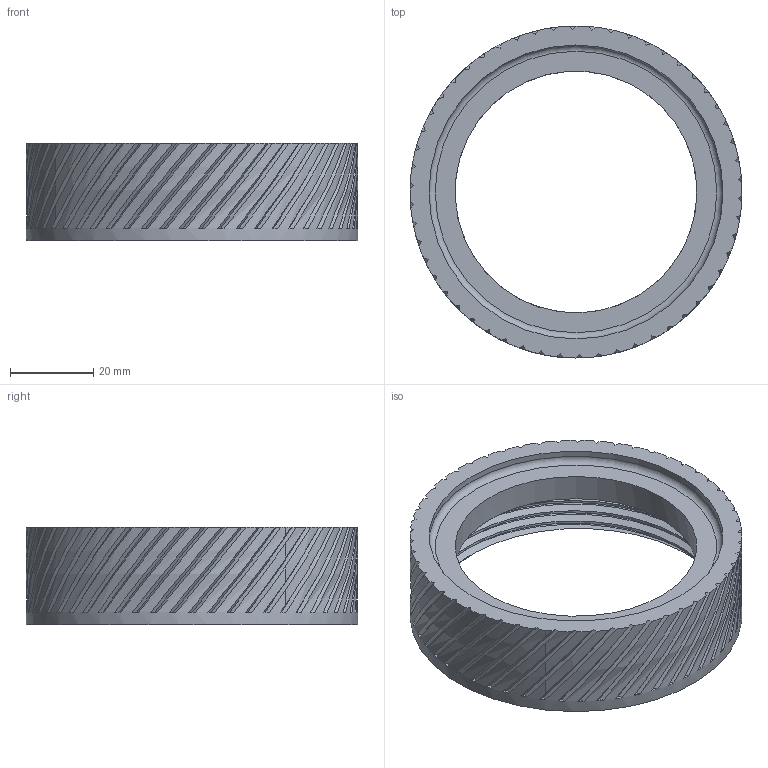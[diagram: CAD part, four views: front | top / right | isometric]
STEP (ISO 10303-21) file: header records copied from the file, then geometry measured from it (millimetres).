
FILE_DESCRIPTION(/* description */ ('STEP AP242','CAx-IF Rec.Pracs.---Representation and Presentation of Product Manufacturing Information (PMI)---4.0---2014-10-13','CAx-IF Rec.Pracs.---3D Tessellated Geometry---0.4---2014-09-14','2;1'),/* implementation_level */ '2;1');
FILE_NAME(/* name */ '646925f6cac4670533c2103b',/* time_stamp */ '2023-05-20T19:56:39Z',/* author */ (''),/* organization */ (''),/* preprocessor_version */ 'ST-DEVELOPER v19.4',/* originating_system */ ' ',/* authorisation */ ' ');
FILE_SCHEMA (('AP242_MANAGED_MODEL_BASED_3D_ENGINEERING_MIM_LF { 1 0 10303 442 1 1 4 }'));
Length unit declared in the file: metre
Products named in the file (1): Base 24mm NoMagnet NoLug
Bounding box: 79.6 x 79.6 x 23.4 mm (x, y, z)
Volume: 32526.5 mm3; surface area: 17181.1 mm2
Topology: 1 solids, 1 shells, 224 faces, 655 edges, 437 vertices
Faces by surface type: bspline 132, plane 79, cylinder 8, cone 4, torus 1
Full cylindrical faces by diameter (mm): 58 x1, 70.5 x1, 79.6 x1
Entity records: 13893 total; most frequent: CARTESIAN_POINT 9564, ORIENTED_EDGE 1270, EDGE_CURVE 635, DIRECTION 456, VERTEX_POINT 426, B_SPLINE_CURVE_WITH_KNOTS 313, EDGE_LOOP 231, FACE_BOUND 231
